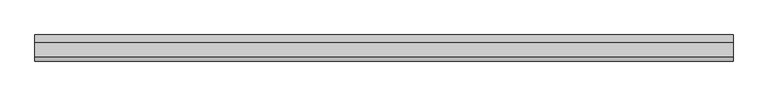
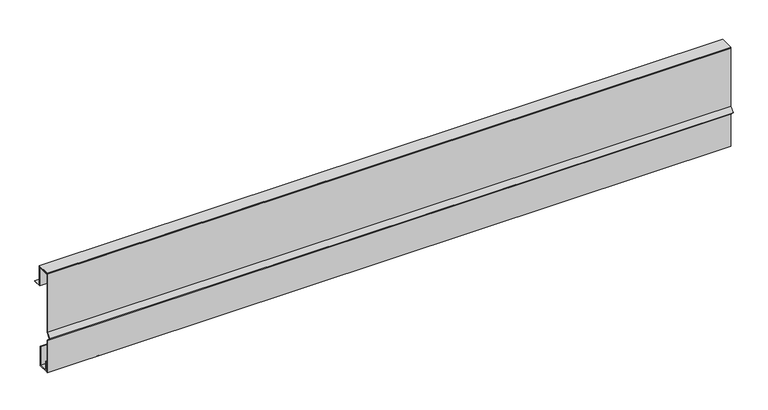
"""IFC4 building model written with IfcOpenShell, lengths in millimetres: proxy geometry, АК9_1 бок Обрамление проема под монтаж рулонных ворот : АК9_1 бок Обрамление проема под монтаж рулонных ворот."""

from ifc_helpers import new_model, si_unit, frame, origin, place, context, project, spatial, polyline, outline, extrude, source, transform, mapped, element, save


def generic_models_43178f1f(model_context):
    return source(origin(), model_context, "Body", "SweptSolid", [
        extrude(outline(polyline([(-16.5265261, -285.0), (-46.5265261, -285.0), (-46.5265261, -255.0), (-44.5265261, -255.0), (-44.5265261, -283.0), (-18.5265261, -283.0), (-18.5265261, -225.0), (-16.5265261, -225.0), (-16.5265261, -285.0)])), frame((0.0, 0.0, 0.0), z_axis=(1.0, 0.0, 0.0), x_axis=(0.0, 1.0, 0.0)), (0.0, 0.0, 1.0), 2021.8898599),
        extrude(outline(polyline([(-17.5, 22.0), (-17.5, 21.0), (-51.5, 21.0), (-51.5, -159.9583694), (-63.8137085, -172.2720779), (-51.5, -184.5857864), (-51.5, -284.0), (-50.5, -284.0), (-50.5, -265.0), (-49.5, -265.0), (-49.5, -285.0), (-52.5, -285.0), (-52.5, -185.0), (-65.2279221, -172.2720779), (-52.5, -159.5441559), (-52.5, 22.0), (-17.5, 22.0)])), frame((0.0, 0.0, 0.0), z_axis=(1.0, 0.0, 0.0), x_axis=(0.0, 1.0, 0.0)), (0.0, 0.0, 1.0), 2021.8898599),
        extrude(outline(polyline([(-12.4998566, -36.0), (10.5001434, -36.0), (10.5001434, -37.0), (-13.4998566, -37.0), (-13.4998566, 23.9999552), (-51.4998566, 23.9999552), (-51.4998566, 22.9999552), (-37.4998566, 22.9999552), (-37.4998566, 21.9999552), (-52.4998566, 21.9999552), (-52.4998566, 24.9999552), (-12.4998566, 24.9999552), (-12.4998566, -36.0)])), frame((0.0, 0.0, 0.0), z_axis=(1.0, 0.0, 0.0), x_axis=(0.0, 1.0, 0.0)), (0.0, 0.0, 1.0), 2021.8898599),
    ])


if __name__ == "__main__":
    model = new_model("IFC4")
    model_context = context("Model", 3, world=origin())
    ifc_project = project(units=[si_unit("LENGTHUNIT", "METRE", prefix="MILLI")], contexts=[model_context])
    site = spatial("IfcSite", under=ifc_project)
    building = spatial("IfcBuilding", under=site)
    placement = place(None, origin())
    generic_models_shape = generic_models_43178f1f(model_context)
    element("IfcBuildingElementProxy", 1, Name="АК9_1 бок Обрамление проема под монтаж рулонных ворот : АК9_1 бок Обрамление проема под монтаж рулонных ворот", ObjectType="АК9_1 бок Обрамление проема под монтаж рулонных ворот : АК9_1 бок Обрамление проема под монтаж рулонных ворот", at=placement, inside=building, context=model_context, shape_type="MappedRepresentation", body=[
        mapped(generic_models_shape, transform((0.0, 0.0, 0.0), x_axis=(1.0, 0.0, 0.0), y_axis=(0.0, 1.0, 0.0), z_axis=(0.0, 0.0, 1.0))),
    ])
    save(model, "model.ifc")
